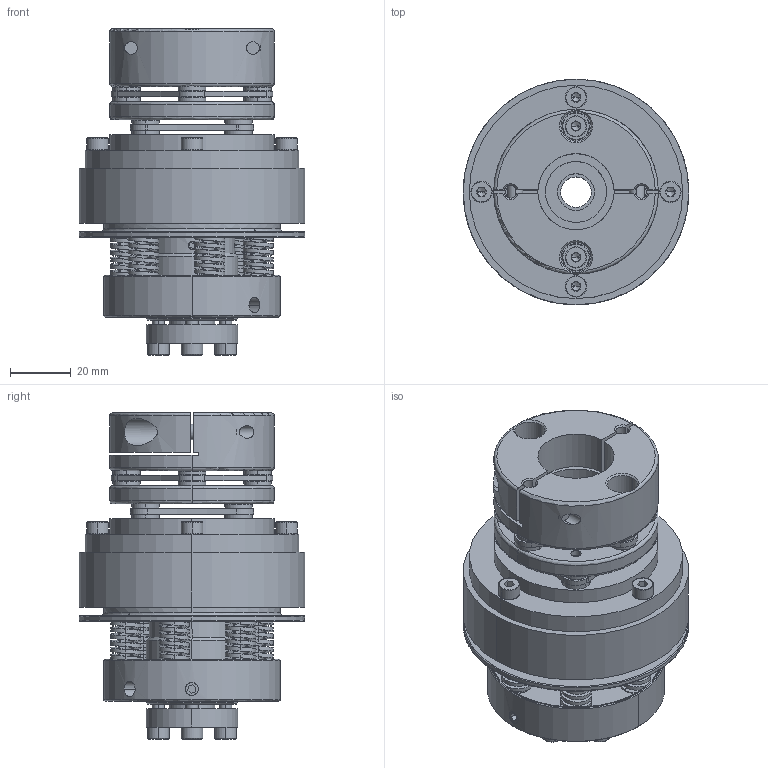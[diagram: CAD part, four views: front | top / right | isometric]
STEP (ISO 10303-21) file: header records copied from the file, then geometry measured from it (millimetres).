
FILE_DESCRIPTION (( 'STEP AP203' ), '1' );
FILE_NAME ('STL25-M-TS4.5-C25-P12.STEP', '2019-06-03T05:19:34', ( '' ), ( '' ), 'SwSTEP 2.0', 'SolidWorks 2015', '' );
FILE_SCHEMA (( 'CONFIG_CONTROL_DESIGN' ));
Length unit declared in the file: millimetre
Products named in the file (1): STL25-M-TS4.5-C25-P12
Bounding box: 74 x 74 x 107.1 mm (x, y, z)
Volume: 201706.7 mm3; surface area: 74697.9 mm2
Topology: 15 solids, 22 shells, 1412 faces, 3516 edges, 2190 vertices
Faces by surface type: cylinder 608, plane 428, cone 176, bspline 100, torus 100
Entity records: 80821 total; most frequent: CARTESIAN_POINT 47823, ORIENTED_EDGE 6924, DIRECTION 6833, EDGE_CURVE 3462, AXIS2_PLACEMENT_3D 2709, VERTEX_POINT 2190, EDGE_LOOP 1590, VECTOR 1415
